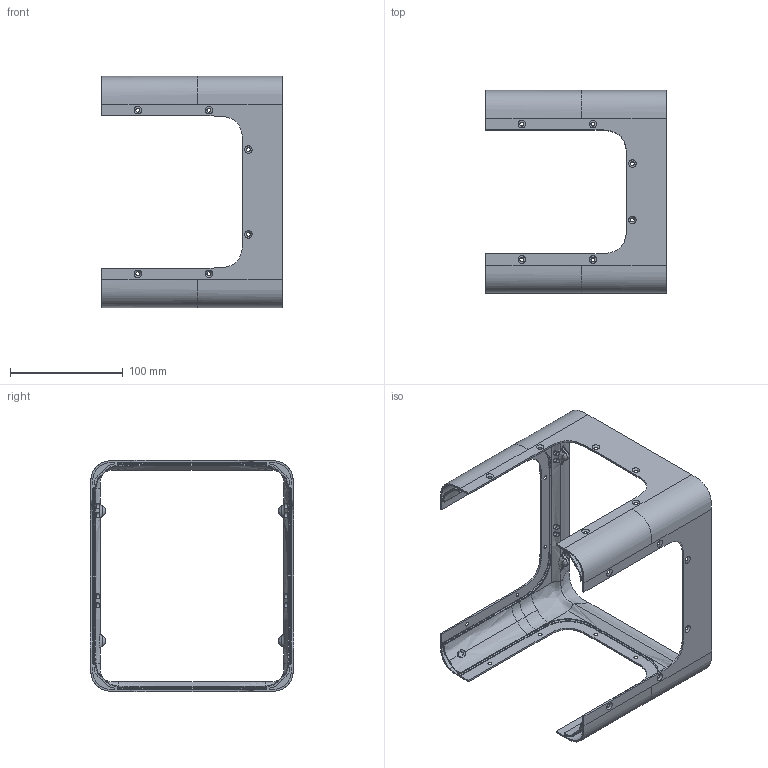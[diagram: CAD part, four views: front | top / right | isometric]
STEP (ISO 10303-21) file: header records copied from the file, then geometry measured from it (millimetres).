
FILE_DESCRIPTION(/* description */ (''),/* implementation_level */ '2;1');
FILE_NAME(/* name */ 'BACK FRAME.step',/* time_stamp */ '2024-02-28T17:21:44Z',/* author */ (''),/* organization */ (''),/* preprocessor_version */ 'ST-DEVELOPER v20',/* originating_system */ 'Autodesk Translation Framework v12.20.1.177',/* authorisation */ '');
FILE_SCHEMA (('AUTOMOTIVE_DESIGN { 1 0 10303 214 3 1 1 }'));
Products named in the file (1): BACK FRAME (1)
Bounding box: 160 x 180 x 205 mm (x, y, z)
Volume: 182360.2 mm3; surface area: 163042.5 mm2
Topology: 1 solids, 3 shells, 401 faces, 1036 edges, 644 vertices
Faces by surface type: bspline 194, plane 119, cylinder 56, cone 32
Full cylindrical faces by diameter (mm): 4 x12
Entity records: 51217 total; most frequent: CARTESIAN_POINT 42847, ORIENTED_EDGE 2072, DIRECTION 1118, EDGE_CURVE 1036, VERTEX_POINT 644, EDGE_LOOP 462, B_SPLINE_CURVE_WITH_KNOTS 450, FACE_OUTER_BOUND 401
